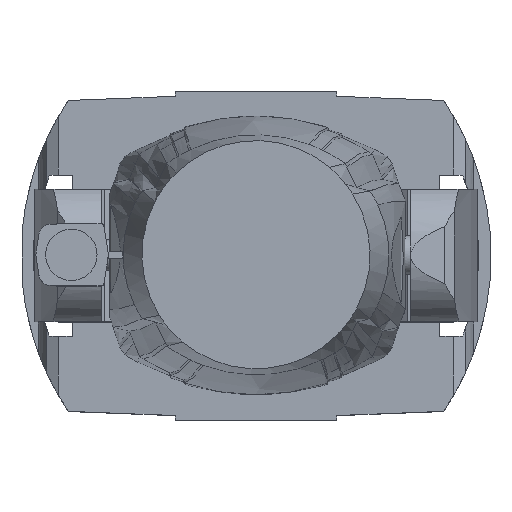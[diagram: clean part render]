
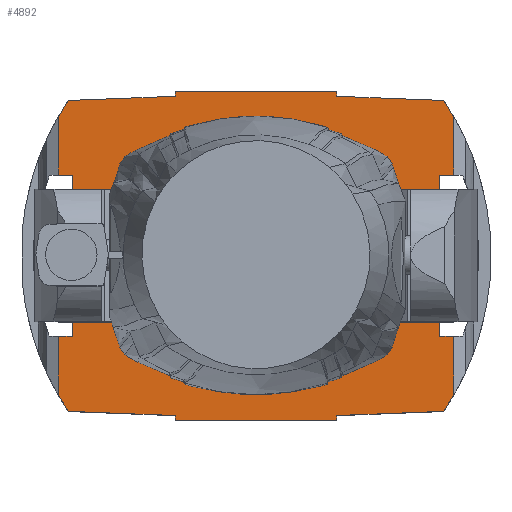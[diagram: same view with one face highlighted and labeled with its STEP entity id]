
A CAD part, top view. The second image highlights one B-rep face of the part: STEP entity #4892.
In plain terms, the highlighted planar face has unit normal (0, 0, 1).
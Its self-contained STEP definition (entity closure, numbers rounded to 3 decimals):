
#499=CIRCLE('',#5282,25.);
#500=CIRCLE('',#5283,286.325);
#501=CIRCLE('',#5284,286.325);
#502=CIRCLE('',#5285,286.325);
#503=CIRCLE('',#5286,286.325);
#791=ORIENTED_EDGE('',*,*,#2224,.T.);
#792=ORIENTED_EDGE('',*,*,#2225,.F.);
#793=ORIENTED_EDGE('',*,*,#2226,.F.);
#794=ORIENTED_EDGE('',*,*,#2102,.F.);
#795=ORIENTED_EDGE('',*,*,#2227,.F.);
#796=ORIENTED_EDGE('',*,*,#2228,.F.);
#797=ORIENTED_EDGE('',*,*,#2229,.F.);
#798=ORIENTED_EDGE('',*,*,#2187,.T.);
#799=ORIENTED_EDGE('',*,*,#2184,.F.);
#800=ORIENTED_EDGE('',*,*,#2175,.F.);
#801=ORIENTED_EDGE('',*,*,#2179,.T.);
#802=ORIENTED_EDGE('',*,*,#2230,.F.);
#803=ORIENTED_EDGE('',*,*,#2231,.T.);
#804=ORIENTED_EDGE('',*,*,#2232,.T.);
#805=ORIENTED_EDGE('',*,*,#2233,.T.);
#806=ORIENTED_EDGE('',*,*,#2234,.T.);
#807=ORIENTED_EDGE('',*,*,#2235,.T.);
#808=ORIENTED_EDGE('',*,*,#2236,.T.);
#809=ORIENTED_EDGE('',*,*,#2237,.T.);
#810=ORIENTED_EDGE('',*,*,#2238,.T.);
#811=ORIENTED_EDGE('',*,*,#2157,.T.);
#812=ORIENTED_EDGE('',*,*,#2161,.F.);
#813=ORIENTED_EDGE('',*,*,#2182,.F.);
#814=ORIENTED_EDGE('',*,*,#2222,.F.);
#815=ORIENTED_EDGE('',*,*,#2239,.F.);
#2102=EDGE_CURVE('',#2841,#2838,#3334,.T.);
#2157=EDGE_CURVE('',#2895,#2894,#3361,.T.);
#2161=EDGE_CURVE('',#2896,#2894,#3365,.T.);
#2175=EDGE_CURVE('',#2909,#2910,#3369,.T.);
#2179=EDGE_CURVE('',#2909,#2911,#3373,.T.);
#2182=EDGE_CURVE('',#2912,#2896,#3376,.T.);
#2184=EDGE_CURVE('',#2910,#2913,#3378,.T.);
#2187=EDGE_CURVE('',#2915,#2913,#3381,.T.);
#2222=EDGE_CURVE('',#2935,#2912,#3401,.T.);
#2224=EDGE_CURVE('',#2936,#2936,#499,.T.);
#2225=EDGE_CURVE('',#2937,#2938,#3402,.T.);
#2226=EDGE_CURVE('',#2838,#2937,#3403,.T.);
#2227=EDGE_CURVE('',#2939,#2841,#3404,.T.);
#2228=EDGE_CURVE('',#2940,#2939,#3405,.T.);
#2229=EDGE_CURVE('',#2915,#2940,#500,.T.);
#2230=EDGE_CURVE('',#2941,#2911,#3406,.T.);
#2231=EDGE_CURVE('',#2941,#2942,#501,.T.);
#2232=EDGE_CURVE('',#2942,#2943,#3407,.T.);
#2233=EDGE_CURVE('',#2943,#2944,#3408,.T.);
#2234=EDGE_CURVE('',#2944,#2945,#3409,.T.);
#2235=EDGE_CURVE('',#2945,#2946,#3410,.T.);
#2236=EDGE_CURVE('',#2946,#2947,#3411,.T.);
#2237=EDGE_CURVE('',#2947,#2948,#502,.T.);
#2238=EDGE_CURVE('',#2948,#2895,#3412,.T.);
#2239=EDGE_CURVE('',#2938,#2935,#503,.T.);
#2838=VERTEX_POINT('',#6696);
#2841=VERTEX_POINT('',#6701);
#2894=VERTEX_POINT('',#6834);
#2895=VERTEX_POINT('',#6836);
#2896=VERTEX_POINT('',#6841);
#2909=VERTEX_POINT('',#6892);
#2910=VERTEX_POINT('',#6894);
#2911=VERTEX_POINT('',#6899);
#2912=VERTEX_POINT('',#6904);
#2913=VERTEX_POINT('',#6909);
#2915=VERTEX_POINT('',#6915);
#2935=VERTEX_POINT('',#7004);
#2936=VERTEX_POINT('',#7008);
#2937=VERTEX_POINT('',#7010);
#2938=VERTEX_POINT('',#7011);
#2939=VERTEX_POINT('',#7014);
#2940=VERTEX_POINT('',#7016);
#2941=VERTEX_POINT('',#7019);
#2942=VERTEX_POINT('',#7021);
#2943=VERTEX_POINT('',#7023);
#2944=VERTEX_POINT('',#7025);
#2945=VERTEX_POINT('',#7027);
#2946=VERTEX_POINT('',#7029);
#2947=VERTEX_POINT('',#7031);
#2948=VERTEX_POINT('',#7033);
#3334=LINE('',#6702,#3671);
#3361=LINE('',#6835,#3698);
#3365=LINE('',#6842,#3702);
#3369=LINE('',#6893,#3706);
#3373=LINE('',#6900,#3710);
#3376=LINE('',#6905,#3713);
#3378=LINE('',#6908,#3715);
#3381=LINE('',#6914,#3718);
#3401=LINE('',#7003,#3738);
#3402=LINE('',#7009,#3739);
#3403=LINE('',#7012,#3740);
#3404=LINE('',#7013,#3741);
#3405=LINE('',#7015,#3742);
#3406=LINE('',#7018,#3743);
#3407=LINE('',#7022,#3744);
#3408=LINE('',#7024,#3745);
#3409=LINE('',#7026,#3746);
#3410=LINE('',#7028,#3747);
#3411=LINE('',#7030,#3748);
#3412=LINE('',#7034,#3749);
#3671=VECTOR('',#5608,1000.);
#3698=VECTOR('',#5689,1000.);
#3702=VECTOR('',#5695,1000.);
#3706=VECTOR('',#5715,1000.);
#3710=VECTOR('',#5721,1000.);
#3713=VECTOR('',#5726,1000.);
#3715=VECTOR('',#5730,1000.);
#3718=VECTOR('',#5735,1000.);
#3738=VECTOR('',#5803,1000.);
#3739=VECTOR('',#5810,1000.);
#3740=VECTOR('',#5811,1000.);
#3741=VECTOR('',#5812,1000.);
#3742=VECTOR('',#5813,1000.);
#3743=VECTOR('',#5816,1000.);
#3744=VECTOR('',#5819,1000.);
#3745=VECTOR('',#5820,1000.);
#3746=VECTOR('',#5821,1000.);
#3747=VECTOR('',#5822,1000.);
#3748=VECTOR('',#5823,1000.);
#3749=VECTOR('',#5826,1000.);
#4042=EDGE_LOOP('',(#791));
#4043=EDGE_LOOP('',(#792,#793,#794,#795,#796,#797,#798,#799,#800,#801,#802,
#803,#804,#805,#806,#807,#808,#809,#810,#811,#812,#813,#814,#815));
#4410=FACE_BOUND('',#4042,.T.);
#4411=FACE_BOUND('',#4043,.T.);
#4752=PLANE('',#5281);
#4892=ADVANCED_FACE('',(#4410,#4411),#4752,.F.);
#5281=AXIS2_PLACEMENT_3D('',#7006,#5806,#5807);
#5282=AXIS2_PLACEMENT_3D('',#7007,#5808,#5809);
#5283=AXIS2_PLACEMENT_3D('',#7017,#5814,#5815);
#5284=AXIS2_PLACEMENT_3D('',#7020,#5817,#5818);
#5285=AXIS2_PLACEMENT_3D('',#7032,#5824,#5825);
#5286=AXIS2_PLACEMENT_3D('',#7035,#5827,#5828);
#5608=DIRECTION('',(-1.,0.,0.));
#5689=DIRECTION('',(1.,0.,0.));
#5695=DIRECTION('',(0.,1.,0.));
#5715=DIRECTION('',(0.,-1.,0.));
#5721=DIRECTION('',(1.,0.,0.));
#5726=DIRECTION('',(1.,0.,0.));
#5730=DIRECTION('',(1.,0.,0.));
#5735=DIRECTION('',(0.,1.,0.));
#5803=DIRECTION('',(0.,1.,0.));
#5806=DIRECTION('',(0.,0.,-1.));
#5807=DIRECTION('',(-1.,0.,0.));
#5808=DIRECTION('',(0.,0.,-1.));
#5809=DIRECTION('',(-1.,0.,0.));
#5810=DIRECTION('',(-0.999,0.039,0.));
#5811=DIRECTION('',(0.,1.,0.));
#5812=DIRECTION('',(0.,-1.,0.));
#5813=DIRECTION('',(-0.999,-0.039,0.));
#5814=DIRECTION('',(0.,0.,-1.));
#5815=DIRECTION('',(-1.,0.,0.));
#5816=DIRECTION('',(0.,-1.,0.));
#5817=DIRECTION('',(0.,0.,1.));
#5818=DIRECTION('',(1.,0.,0.));
#5819=DIRECTION('',(-0.999,0.039,0.));
#5820=DIRECTION('',(0.,1.,0.));
#5821=DIRECTION('',(-1.,0.,0.));
#5822=DIRECTION('',(0.,-1.,0.));
#5823=DIRECTION('',(-0.999,-0.039,0.));
#5824=DIRECTION('',(0.,0.,1.));
#5825=DIRECTION('',(1.,0.,0.));
#5826=DIRECTION('',(0.,-1.,0.));
#5827=DIRECTION('',(0.,0.,-1.));
#5828=DIRECTION('',(-1.,0.,0.));
#6696=CARTESIAN_POINT('',(-83.303,-169.654,102.853));
#6701=CARTESIAN_POINT('',(83.303,-169.654,102.853));
#6702=CARTESIAN_POINT('',(-83.303,-169.654,102.853));
#6834=CARTESIAN_POINT('',(-189.287,83.367,102.853));
#6835=CARTESIAN_POINT('',(-212.646,83.367,102.853));
#6836=CARTESIAN_POINT('',(-203.675,83.367,102.853));
#6841=CARTESIAN_POINT('',(-189.287,-82.964,102.853));
#6842=CARTESIAN_POINT('',(-189.287,83.367,102.853));
#6892=CARTESIAN_POINT('',(189.287,83.367,102.853));
#6893=CARTESIAN_POINT('',(189.287,83.367,102.853));
#6894=CARTESIAN_POINT('',(189.287,-82.964,102.853));
#6899=CARTESIAN_POINT('',(203.675,83.367,102.853));
#6900=CARTESIAN_POINT('',(212.646,83.367,102.853));
#6904=CARTESIAN_POINT('',(-203.675,-82.964,102.853));
#6905=CARTESIAN_POINT('',(-212.646,-82.964,102.853));
#6908=CARTESIAN_POINT('',(212.646,-82.964,102.853));
#6909=CARTESIAN_POINT('',(203.675,-82.964,102.853));
#6914=CARTESIAN_POINT('',(203.675,-602.76,102.853));
#6915=CARTESIAN_POINT('',(203.675,-143.751,102.853));
#7003=CARTESIAN_POINT('',(-203.675,-602.76,102.853));
#7004=CARTESIAN_POINT('',(-203.675,-143.751,102.853));
#7006=CARTESIAN_POINT('',(203.675,-602.76,102.853));
#7007=CARTESIAN_POINT('',(0.,0.,102.853));
#7008=CARTESIAN_POINT('',(-25.,0.,102.853));
#7009=CARTESIAN_POINT('',(-193.314,-160.277,102.853));
#7010=CARTESIAN_POINT('',(-83.303,-164.605,102.853));
#7011=CARTESIAN_POINT('',(-193.314,-160.277,102.853));
#7012=CARTESIAN_POINT('',(-83.303,-164.605,102.853));
#7013=CARTESIAN_POINT('',(83.303,-164.605,102.853));
#7014=CARTESIAN_POINT('',(83.303,-164.605,102.853));
#7015=CARTESIAN_POINT('',(193.314,-160.277,102.853));
#7016=CARTESIAN_POINT('',(193.314,-160.277,102.853));
#7017=CARTESIAN_POINT('',(-43.959,-0.017,102.853));
#7018=CARTESIAN_POINT('',(203.675,602.76,102.853));
#7019=CARTESIAN_POINT('',(203.675,143.718,102.853));
#7020=CARTESIAN_POINT('',(-43.959,-0.017,102.853));
#7021=CARTESIAN_POINT('',(193.296,160.271,102.853));
#7022=CARTESIAN_POINT('',(193.296,160.271,102.853));
#7023=CARTESIAN_POINT('',(83.303,164.605,102.853));
#7024=CARTESIAN_POINT('',(83.303,164.605,102.853));
#7025=CARTESIAN_POINT('',(83.303,169.654,102.853));
#7026=CARTESIAN_POINT('',(-83.303,169.654,102.853));
#7027=CARTESIAN_POINT('',(-83.303,169.654,102.853));
#7028=CARTESIAN_POINT('',(-83.303,164.605,102.853));
#7029=CARTESIAN_POINT('',(-83.303,164.605,102.853));
#7030=CARTESIAN_POINT('',(-193.296,160.271,102.853));
#7031=CARTESIAN_POINT('',(-193.296,160.271,102.853));
#7032=CARTESIAN_POINT('',(43.959,-0.017,102.853));
#7033=CARTESIAN_POINT('',(-203.675,143.718,102.853));
#7034=CARTESIAN_POINT('',(-203.675,602.76,102.853));
#7035=CARTESIAN_POINT('',(43.959,-0.017,102.853));
